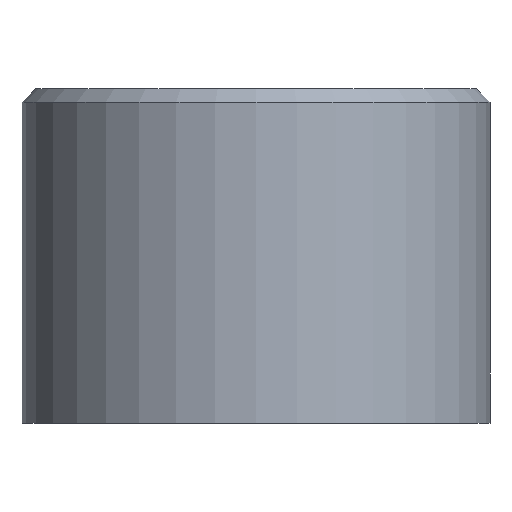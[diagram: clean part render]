
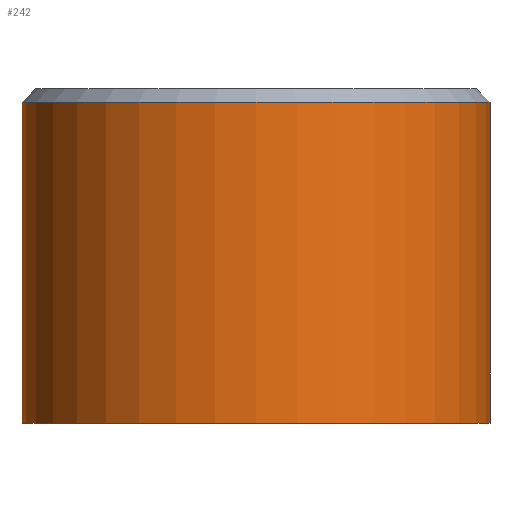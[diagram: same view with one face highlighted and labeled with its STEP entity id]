
A CAD part, front view. The second image highlights one B-rep face of the part: STEP entity #242.
In plain terms, the highlighted cylindrical face has radius 35 mm (diameter 70 mm), a full revolution.
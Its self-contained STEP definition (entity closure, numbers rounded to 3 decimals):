
#40=FACE_BOUND('',#93,.T.);
#46=LINE('',#539,#56);
#56=VECTOR('',#338,35.);
#66=CYLINDRICAL_SURFACE('',#288,35.);
#74=FACE_OUTER_BOUND('',#92,.T.);
#92=EDGE_LOOP('',(#191,#192,#193,#194,#195));
#93=EDGE_LOOP('',(#196));
#115=B_SPLINE_CURVE_WITH_KNOTS('',3,(#513,#514,#515,#516,#517,#518,#519,
#520,#521,#522,#523,#524,#525,#526,#527,#528),.UNSPECIFIED.,.T.,.F.,(4,
1,1,1,1,1,1,1,1,1,1,1,1,4),(-5.546,-5.32,-5.094,
-4.867,-4.641,-4.414,-4.188,
-3.886,-3.735,-3.283,-3.056,
-2.83,-2.603,-2.377),.UNSPECIFIED.);
#118=CIRCLE('',#289,35.);
#119=CIRCLE('',#290,35.);
#120=CIRCLE('',#291,35.);
#132=VERTEX_POINT('',#489);
#136=VERTEX_POINT('',#534);
#137=VERTEX_POINT('',#535);
#138=VERTEX_POINT('',#538);
#155=EDGE_CURVE('',#132,#132,#115,.T.);
#158=EDGE_CURVE('',#136,#137,#118,.T.);
#159=EDGE_CURVE('',#137,#136,#119,.T.);
#160=EDGE_CURVE('',#137,#138,#46,.T.);
#161=EDGE_CURVE('',#138,#138,#120,.T.);
#191=ORIENTED_EDGE('',*,*,#158,.F.);
#192=ORIENTED_EDGE('',*,*,#159,.F.);
#193=ORIENTED_EDGE('',*,*,#160,.T.);
#194=ORIENTED_EDGE('',*,*,#161,.F.);
#195=ORIENTED_EDGE('',*,*,#160,.F.);
#196=ORIENTED_EDGE('',*,*,#155,.F.);
#242=ADVANCED_FACE('',(#74,#40),#66,.T.);
#288=AXIS2_PLACEMENT_3D('',#533,#332,#333);
#289=AXIS2_PLACEMENT_3D('',#536,#334,#335);
#290=AXIS2_PLACEMENT_3D('',#537,#336,#337);
#291=AXIS2_PLACEMENT_3D('',#540,#339,#340);
#332=DIRECTION('center_axis',(0.,0.,1.));
#333=DIRECTION('ref_axis',(1.,0.,0.));
#334=DIRECTION('center_axis',(0.,0.,1.));
#335=DIRECTION('ref_axis',(-1.,0.,0.));
#336=DIRECTION('center_axis',(0.,0.,1.));
#337=DIRECTION('ref_axis',(-1.,0.,0.));
#338=DIRECTION('',(0.,0.,-1.));
#339=DIRECTION('center_axis',(0.,0.,-1.));
#340=DIRECTION('ref_axis',(1.,0.,0.));
#489=CARTESIAN_POINT('',(0.,35.,28.25));
#513=CARTESIAN_POINT('Ctrl Pts',(0.,35.,28.25));
#514=CARTESIAN_POINT('Ctrl Pts',(-0.97,35.,28.25));
#515=CARTESIAN_POINT('Ctrl Pts',(-2.909,34.914,28.714));
#516=CARTESIAN_POINT('Ctrl Pts',(-5.231,34.623,30.646));
#517=CARTESIAN_POINT('Ctrl Pts',(-6.526,34.387,33.441));
#518=CARTESIAN_POINT('Ctrl Pts',(-6.525,34.388,36.561));
#519=CARTESIAN_POINT('Ctrl Pts',(-5.231,34.622,39.351));
#520=CARTESIAN_POINT('Ctrl Pts',(-2.65,34.949,41.508));
#521=CARTESIAN_POINT('Ctrl Pts',(0.354,35.043,41.978));
#522=CARTESIAN_POINT('Ctrl Pts',(4.117,34.824,40.779));
#523=CARTESIAN_POINT('Ctrl Pts',(6.537,34.385,37.609));
#524=CARTESIAN_POINT('Ctrl Pts',(6.521,34.388,33.436));
#525=CARTESIAN_POINT('Ctrl Pts',(5.233,34.623,30.649));
#526=CARTESIAN_POINT('Ctrl Pts',(2.908,34.914,28.713));
#527=CARTESIAN_POINT('Ctrl Pts',(0.97,35.,28.25));
#528=CARTESIAN_POINT('Ctrl Pts',(0.,35.,28.25));
#533=CARTESIAN_POINT('Origin',(0.,0.,25.));
#534=CARTESIAN_POINT('',(35.,0.,48.));
#535=CARTESIAN_POINT('',(-35.,0.,48.));
#536=CARTESIAN_POINT('Origin',(0.,0.,48.));
#537=CARTESIAN_POINT('Origin',(0.,0.,48.));
#538=CARTESIAN_POINT('',(-35.,0.,0.));
#539=CARTESIAN_POINT('',(-35.,0.,25.));
#540=CARTESIAN_POINT('Origin',(0.,0.,0.));
